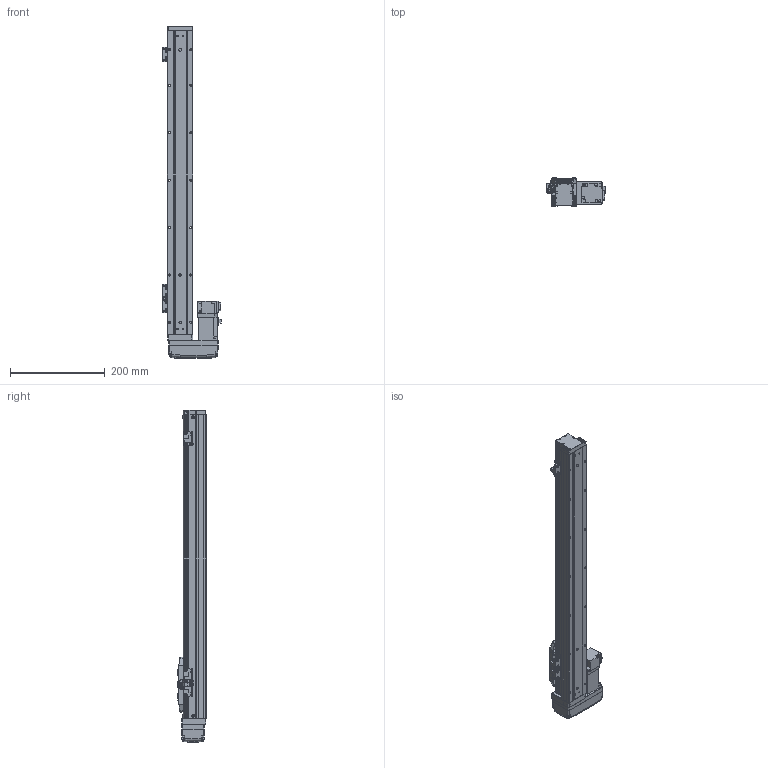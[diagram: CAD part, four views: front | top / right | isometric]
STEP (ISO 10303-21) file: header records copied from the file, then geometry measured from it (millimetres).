
FILE_DESCRIPTION (( 'STEP AP203' ), '1' );
FILE_NAME ('GTH5-500-BR-M10-C4.step', '2022-09-23T00:51:23', ( '微软用户' ), ( '微软中国' ), 'SwSTEP 2.0', 'SolidWorks 2020', '' );
FILE_SCHEMA (( 'CONFIG_CONTROL_DESIGN' ));
Length unit declared in the file: millimetre
Products named in the file (19): GTH50-006; GTH50-013; GTH50-022-1; GTH50-004; GTH50-023; HG-KR13; GBT 70.3-M3℅6; GBT 70.1-M3℅6; GTH50-027-1_BTHA50-027-2; BTH-M3X5X6; GBT96.1-2002 3×0.8; GTH50-026; GTH50-001_500; GTH50-024; GTH5-500-BR-M10-C4; GBT 70.1-M4×16; GBT 70.1-M2.5×6; GTH50-003; GTH50-028
Assembly tree (57 placements, depth 2):
  GTH5-500-BR-M10-C4
    GTH50-006
    GTH50-004
    GBT 70.3-M3℅6  x4
    BTH-M3X5X6  x8
    GTH50-001_500
    GBT 70.1-M4×16  x8
    GTH50-003
    GTH50-013
    GTH50-023  x3
    GBT 70.1-M3℅6  x12
    GBT96.1-2002 3×0.8  x6
    GTH50-024  x3
    GBT 70.1-M2.5×6  x2
    GTH50-028  x2
    GTH50-022-1
    HG-KR13
    GTH50-027-1_BTHA50-027-2
    GTH50-026
Bounding box: 123.6 x 60 x 700 mm (x, y, z)
Volume: 1612569.3 mm3; surface area: 280303.5 mm2
Topology: 59 solids, 59 shells, 2156 faces, 5004 edges, 3068 vertices
Faces by surface type: plane 1142, cylinder 585, cone 219, torus 162, bspline 40, sphere 8
Entity records: 40012 total; most frequent: CARTESIAN_POINT 7923, DIRECTION 6157, ORIENTED_EDGE 5922, EDGE_CURVE 2961, AXIS2_PLACEMENT_3D 2140, VECTOR 1877, LINE 1877, VERTEX_POINT 1870
